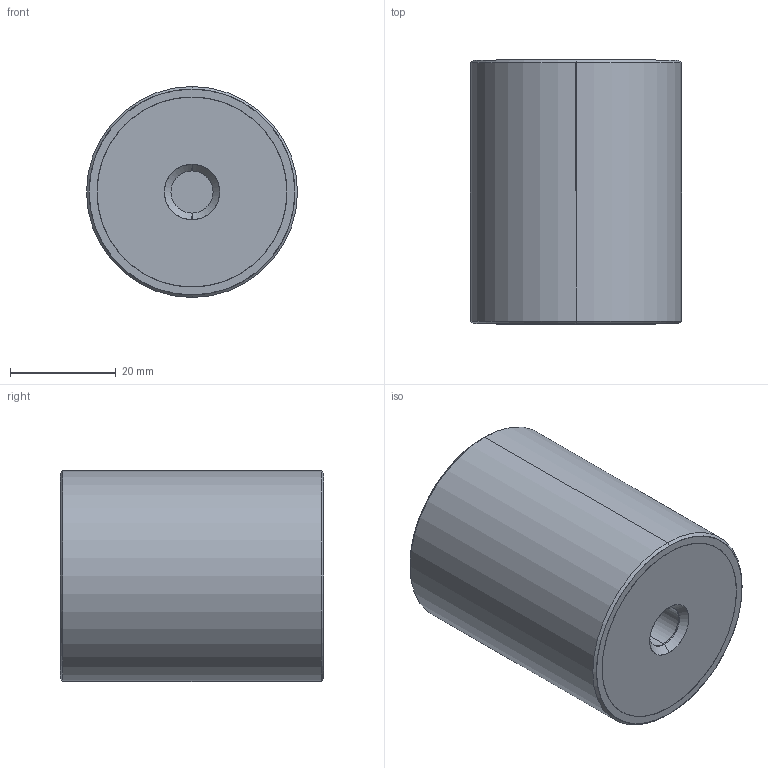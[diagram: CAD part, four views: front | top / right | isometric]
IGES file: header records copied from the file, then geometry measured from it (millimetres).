
Start section: SolidWorks IGES file using analytic representation for surfaces
Global section: file name: E:\WIXROYD 20180701\61080_v2\61080_v2_20180409_IGES\61080.W0403.igs; native system: SolidWorks 2017; preprocessor: SolidWorks 2017; author: liam_; date: 180716.214457; units: millimetre
Bounding box: 40 x 50 x 40 mm (x, y, z)
Surface area: 13640.6 mm2 (no closed solid volume)
Topology: 0 solids, 0 shells, 36 faces, 1000 edges, 1000 vertices
Faces by surface type: revolution 26, bspline 10
